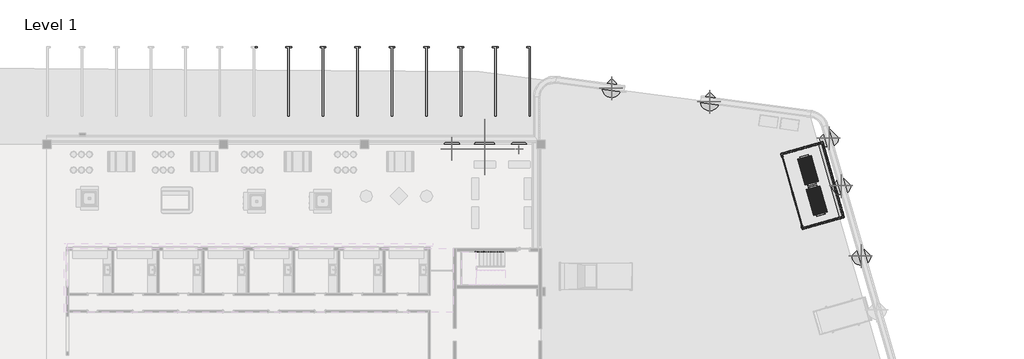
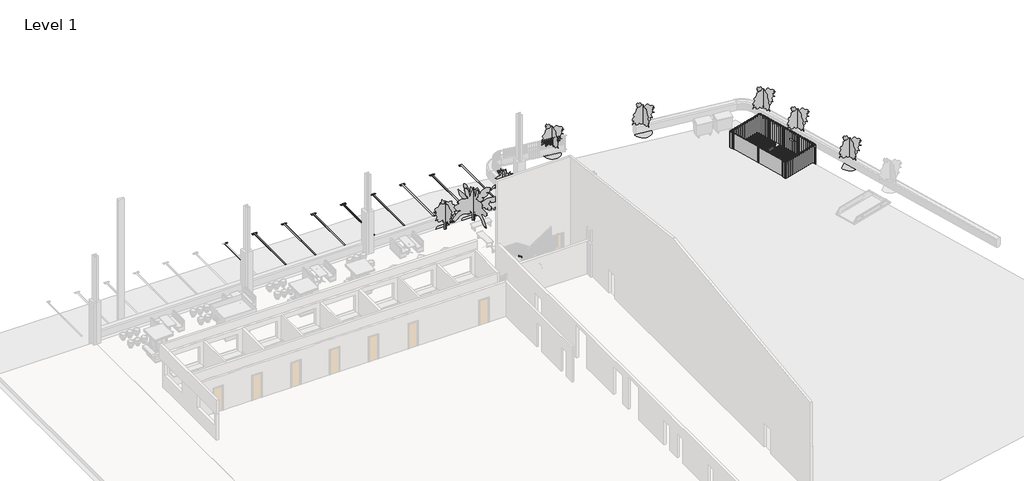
# One storey, part 32 of 32: 9 geographic elements, 2 proxies, 1 member.
"""IFC4 building model written with IfcOpenShell, lengths in millimetres."""

from ifc_helpers import new_model, si_unit, frame, origin, place, context, project, spatial, polyline, outline, extrude, transform, mapped, element, save
from components import parking_bays_standard_uk_6_bays_a1d699d5, geographic_element_d687a30b, geographic_element_b80453f7, rpc_tree_tropical_0b38fe0e, rpc_tree_tropical_golden_malay_palm_3_0_meters_7e528e70, rpc_tree_tropical_hurricane_palm_3_6_meters_73a83cb7

model = new_model("IFC4")

# Units and contexts
model_context = context("Model", 3, world=origin())
ifc_project = project(units=[si_unit("LENGTHUNIT", "METRE", prefix="MILLI")], contexts=[model_context])

# Site, building, storey
site = spatial("IfcSite", under=ifc_project)
building = spatial("IfcBuilding", under=site)
storey = spatial("IfcBuildingStorey", under=building, Name="Level 1", Elevation=2800.0)

# Proxies
placement = place(None, origin())
parking_bays_standard_uk_6_bays_shape = parking_bays_standard_uk_6_bays_a1d699d5(model_context)
element("IfcBuildingElementProxy", 1, Name="Parking Bays-Standard (UK) : 6 Bays", ObjectType="Parking Bays-Standard (UK) : 6 Bays", at=placement, inside=storey, context=model_context, shape_type="MappedRepresentation", body=[
    mapped(parking_bays_standard_uk_6_bays_shape, transform((-23180.3056755, 9978.5855015, 2100.0), x_axis=(-1.0, 0.0, 0.0), y_axis=(0.0, -1.0, 0.0), z_axis=(0.0, 0.0, 1.0))),
])
element("IfcBuildingElementProxy", 2, Name="Parking Bays-Standard (UK) : 6 Bays", ObjectType="Parking Bays-Standard (UK) : 6 Bays", at=placement, inside=storey, context=model_context, shape_type="MappedRepresentation", body=[
    mapped(parking_bays_standard_uk_6_bays_shape, transform((-13580.3056755, 9978.5855015, 2100.0), x_axis=(-1.0, 0.0, 0.0), y_axis=(0.0, -1.0, 0.0), z_axis=(0.0, 0.0, 1.0))),
])

# Geographic elements
geographic_element_shape = geographic_element_d687a30b(model_context)
geographic_element_2_shape = geographic_element_b80453f7(model_context)
element("IfcGeographicElement", 3, ObjectType="Wood_Dumpster_Enclosure_3849 : 2 Yard Dumpsters", at=placement, inside=storey, context=model_context, shape_type="MappedRepresentation", body=[
    mapped(geographic_element_shape, transform((6116.0093805, 5126.4448446, 1532.5280161), x_axis=(0.27245234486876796, -0.962169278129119, 0.0), y_axis=(0.962169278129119, 0.27245234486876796, 0.0), z_axis=(0.0, 0.0, 1.0))),
    mapped(geographic_element_2_shape, transform((6116.0093805, 5126.4448446, 1532.5280161), x_axis=(0.27245234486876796, -0.962169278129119, 0.0), y_axis=(0.962169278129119, 0.27245234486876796, 0.0), z_axis=(0.0, 0.0, 1.0))),
])
rpc_tree_tropical_shape = rpc_tree_tropical_0b38fe0e(model_context)
element("IfcGeographicElement", 4, ObjectType="RPC Tree - Tropical : Windmill Palm - 2.4 Meters", at=placement, inside=storey, context=model_context, shape_type="MappedRepresentation", body=[
    mapped(rpc_tree_tropical_shape, transform((-19002.6628841, 7666.2296411, 2800.0), x_axis=(-1.0, 0.0, 0.0), y_axis=(0.0, -1.0, 0.0), z_axis=(0.0, 0.0, 1.0))),
])
element("IfcGeographicElement", 5, ObjectType="RPC Tree - Tropical : Windmill Palm - 2.4 Meters", at=placement, inside=storey, context=model_context, shape_type="MappedRepresentation", body=[
    mapped(rpc_tree_tropical_shape, transform((7276.9904894, 8452.7835706, 2800.0), x_axis=(1.0, 0.0, 0.0), y_axis=(0.0, 1.0, 0.0), z_axis=(0.0, 0.0, 1.0))),
])
element("IfcGeographicElement", 6, ObjectType="RPC Tree - Tropical : Windmill Palm - 2.4 Meters", at=placement, inside=storey, context=model_context, shape_type="MappedRepresentation", body=[
    mapped(rpc_tree_tropical_shape, transform((-1042.8608875, 10996.4174017, 2800.0), x_axis=(1.0, 0.0, 0.0), y_axis=(0.0, 1.0, 0.0), z_axis=(0.0, 0.0, 1.0))),
])
element("IfcGeographicElement", 7, ObjectType="RPC Tree - Tropical : Windmill Palm - 2.4 Meters", at=placement, inside=storey, context=model_context, shape_type="MappedRepresentation", body=[
    mapped(rpc_tree_tropical_shape, transform((-7879.8038646, 11927.1218269, 2800.0), x_axis=(1.0, 0.0, 0.0), y_axis=(0.0, 1.0, 0.0), z_axis=(0.0, 0.0, 1.0))),
])
element("IfcGeographicElement", 8, ObjectType="RPC Tree - Tropical : Windmill Palm - 2.4 Meters", at=placement, inside=storey, context=model_context, shape_type="MappedRepresentation", body=[
    mapped(rpc_tree_tropical_shape, transform((8136.9805855, 5128.4001912, 2800.0), x_axis=(1.0, 0.0, 0.0), y_axis=(0.0, 1.0, 0.0), z_axis=(0.0, 0.0, 1.0))),
])
element("IfcGeographicElement", 9, ObjectType="RPC Tree - Tropical : Windmill Palm - 2.4 Meters", at=placement, inside=storey, context=model_context, shape_type="MappedRepresentation", body=[
    mapped(rpc_tree_tropical_shape, transform((9526.4875443, 221.3368727, 2800.0), x_axis=(1.0, 0.0, 0.0), y_axis=(0.0, 1.0, 0.0), z_axis=(0.0, 0.0, 1.0))),
])
rpc_tree_tropical_golden_malay_palm_3_0_meters_shape = rpc_tree_tropical_golden_malay_palm_3_0_meters_7e528e70(model_context)
element("IfcGeographicElement", 10, ObjectType="RPC Tree - Tropical : Golden Malay Palm - 3.0 Meters", at=placement, inside=storey, context=model_context, shape_type="MappedRepresentation", body=[
    mapped(rpc_tree_tropical_golden_malay_palm_3_0_meters_shape, transform((-16725.0991188, 7666.2296411, 2800.0), x_axis=(-1.0, 0.0, 0.0), y_axis=(0.0, -1.0, 0.0), z_axis=(0.0, 0.0, 1.0))),
])
rpc_tree_tropical_hurricane_palm_3_6_meters_shape = rpc_tree_tropical_hurricane_palm_3_6_meters_73a83cb7(model_context)
element("IfcGeographicElement", 11, ObjectType="RPC Tree - Tropical : Hurricane Palm - 3.6 Meters", at=placement, inside=storey, context=model_context, shape_type="MappedRepresentation", body=[
    mapped(rpc_tree_tropical_hurricane_palm_3_6_meters_shape, transform((-14342.9864979, 7666.2296411, 2800.0), x_axis=(-1.0, 0.0, 0.0), y_axis=(0.0, -1.0, 0.0), z_axis=(0.0, 0.0, 1.0))),
])

# Member
element("IfcMember", 12, ObjectType="Stringer-50mm_Width", at=placement, inside=storey, context=model_context, shape_type="SweptSolid", body=[
    extrude(outline(polyline([(2800.0, -15325.9339353), (3033.0589054, -15325.9339353), (4342.4365081, -17290.0003393), (3942.4365081, -17411.1105944), (2800.0, -15697.4558322), (2800.0, -15325.9339353)])), frame((0.0, 493.6800404, 0.0), z_axis=(0.0, 1.0, 0.0), x_axis=(0.0, 0.0, 1.0)), (0.0, 0.0, 1.0), 50.0),
])

save(model, "model.ifc")
